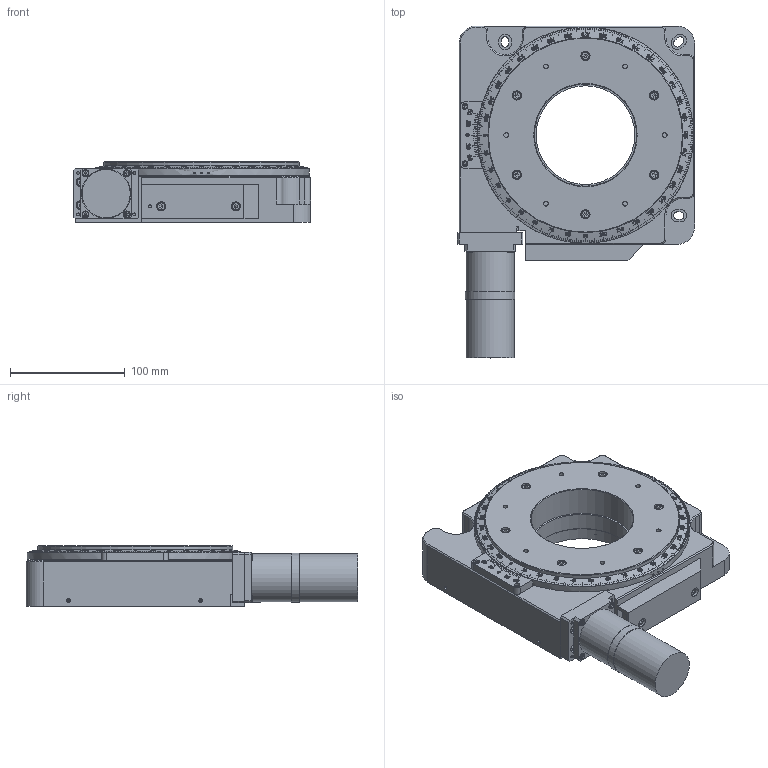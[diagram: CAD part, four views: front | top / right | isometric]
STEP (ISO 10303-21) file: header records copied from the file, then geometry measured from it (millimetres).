
FILE_DESCRIPTION(/* description */ (''),/* implementation_level */ '2;1');
FILE_NAME(/* name */ 'U:\KONSTRUKTORIAI\DOKUMENTACIJA\8\8MR190-90\8MR190V-90\STEP\8MR190V-90-VSS42G6 SB.stp',/* time_stamp */ '2019-08-26T10:21:51+03:00',/* author */ ('dsgn32'),/* organization */ (''),/* preprocessor_version */ 'ST-DEVELOPER v15.2',/* originating_system */ 'Autodesk Inventor 2014',/* authorisation */ '');
FILE_SCHEMA (('AUTOMOTIVE_DESIGN { 1 0 10303 214 3 1 1 }'));
Products named in the file (1): 8MR190V-90-VSS42G6 SB
Bounding box: 206.5 x 289 x 53 mm (x, y, z)
Volume: 1638149.6 mm3; surface area: 192504.4 mm2
Topology: 1 solids, 49 shells, 4701 faces, 12036 edges, 7896 vertices
Faces by surface type: plane 2431, bspline 1319, cone 613, cylinder 280, torus 58
Full cylindrical faces by diameter (mm): 1.4 x2, 1.567 x7, 2.013 x5, 2.256 x1, 2.4 x2, 2.459 x9, 2.5 x4, 3 x10, 3.242 x20, 3.5 x5, 4 x22, 4.134 x6, 4.3 x6, 4.5 x26, 4.917 x2, 5 x8, 5.5 x4, 5.6 x1, 6 x4, 6.3 x2, 7 x22, 7.5 x2, 8 x25, 9 x2, 14 x2, 20 x1, 22 x1, 22.5 x1, 24 x2, 25 x1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
Entity records: 465940 total; most frequent: CARTESIAN_POINT 364229, ORIENTED_EDGE 22988, DIRECTION 14011, EDGE_CURVE 11492, VERTEX_POINT 7715, EDGE_LOOP 5641, LINE 5225, VECTOR 5225
